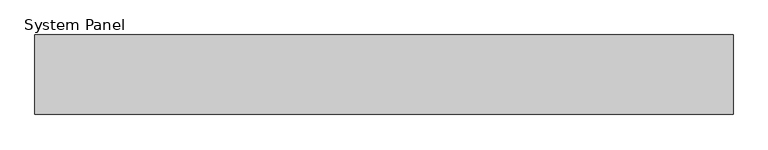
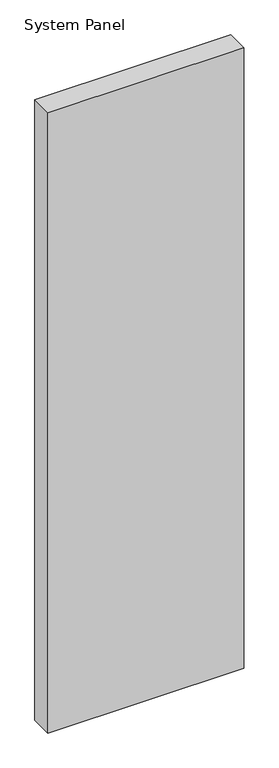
"""IFC4 building model written with IfcOpenShell, lengths in millimetres: plate geometry, System Panel : MetecnoPanel_125mm_Plain_Surfmist."""

from ifc_helpers import new_model, si_unit, origin, origin_with_axes, place, context, project, spatial, polyline, outline, extrude, source, transform, mapped, element, save


def system_panel_7eebd85d(model_context):
    return source(origin(), model_context, "Body", "SweptSolid", [
        extrude(outline(polyline([(550.0, -125.0), (-550.0, -125.0), (-550.0, 0.0), (550.0, 0.0), (550.0, -125.0)])), origin_with_axes(), (0.0, 0.0, 1.0), 3679.9704237),
    ])


if __name__ == "__main__":
    model = new_model("IFC4")
    model_context = context("Model", 3, world=origin())
    ifc_project = project(units=[si_unit("LENGTHUNIT", "METRE", prefix="MILLI")], contexts=[model_context])
    site = spatial("IfcSite", under=ifc_project)
    building = spatial("IfcBuilding", under=site)
    placement = place(None, origin())
    system_panel_shape = system_panel_7eebd85d(model_context)
    element("IfcPlate", 1, ObjectType="System Panel : MetecnoPanel_125mm_Plain_Surfmist", at=placement, inside=building, context=model_context, shape_type="MappedRepresentation", body=[
        mapped(system_panel_shape, transform((0.0, 0.0, 0.0), x_axis=(1.0, 0.0, 0.0), y_axis=(0.0, 1.0, 0.0), z_axis=(0.0, 0.0, 1.0))),
    ])
    save(model, "model.ifc")
